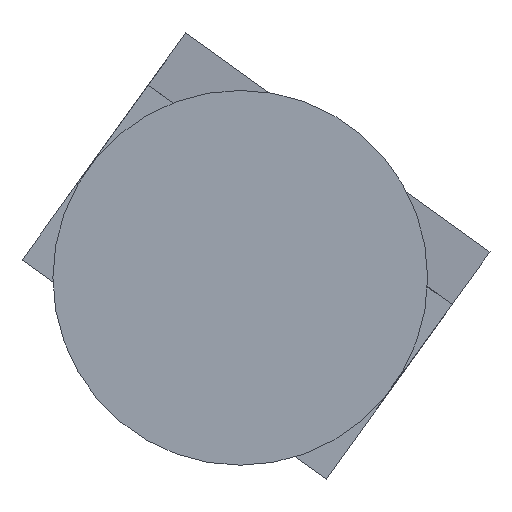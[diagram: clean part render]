
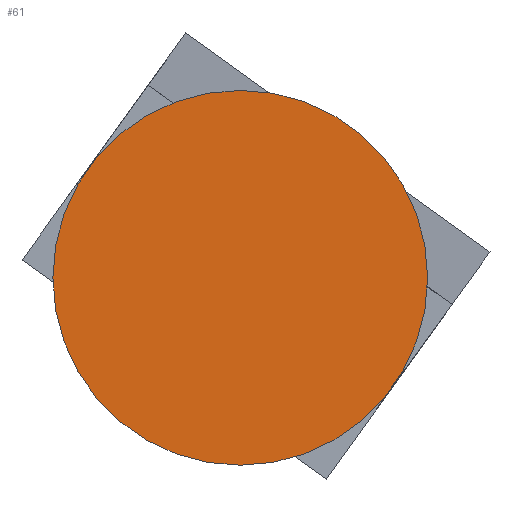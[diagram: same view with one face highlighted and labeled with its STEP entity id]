
A CAD part, front view. The second image highlights one B-rep face of the part: STEP entity #61.
In plain terms, the highlighted planar face has unit normal (0, -1, 0).
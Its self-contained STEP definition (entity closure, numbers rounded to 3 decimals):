
#5 = CIRCLE ( 'NONE', #269, 9.1 ) ;
#32 = ORIENTED_EDGE ( 'NONE', *, *, #559, .F. ) ;
#58 = AXIS2_PLACEMENT_3D ( 'NONE', #676, #619, #671 ) ;
#61 = ADVANCED_FACE ( 'NONE', ( #466 ), #806, .F. ) ;
#76 = EDGE_LOOP ( 'NONE', ( #371, #32 ) ) ;
#79 = EDGE_CURVE ( 'NONE', #823, #760, #5, .T. ) ;
#174 = AXIS2_PLACEMENT_3D ( 'NONE', #201, #258, #528 ) ;
#201 = CARTESIAN_POINT ( 'NONE',  ( 0., 0., 0. ) ) ;
#216 = DIRECTION ( 'NONE',  ( 0., 1., 0. ) ) ;
#258 = DIRECTION ( 'NONE',  ( 0., 1., 0. ) ) ;
#269 = AXIS2_PLACEMENT_3D ( 'NONE', #344, #216, #410 ) ;
#343 = CARTESIAN_POINT ( 'NONE',  ( 0., 0., 9.1 ) ) ;
#344 = CARTESIAN_POINT ( 'NONE',  ( 0., 0., 0. ) ) ;
#371 = ORIENTED_EDGE ( 'NONE', *, *, #79, .F. ) ;
#410 = DIRECTION ( 'NONE',  ( 0., 0., 1. ) ) ;
#466 = FACE_OUTER_BOUND ( 'NONE', #76, .T. ) ;
#528 = DIRECTION ( 'NONE',  ( 0., 0., 1. ) ) ;
#559 = EDGE_CURVE ( 'NONE', #760, #823, #569, .T. ) ;
#569 = CIRCLE ( 'NONE', #174, 9.1 ) ;
#619 = DIRECTION ( 'NONE',  ( 0., 1., 0. ) ) ;
#660 = CARTESIAN_POINT ( 'NONE',  ( 0., 0., -9.1 ) ) ;
#671 = DIRECTION ( 'NONE',  ( 0., 0., 1. ) ) ;
#676 = CARTESIAN_POINT ( 'NONE',  ( 0., 0., 0. ) ) ;
#760 = VERTEX_POINT ( 'NONE', #343 ) ;
#806 = PLANE ( 'NONE',  #58 ) ;
#823 = VERTEX_POINT ( 'NONE', #660 ) ;
